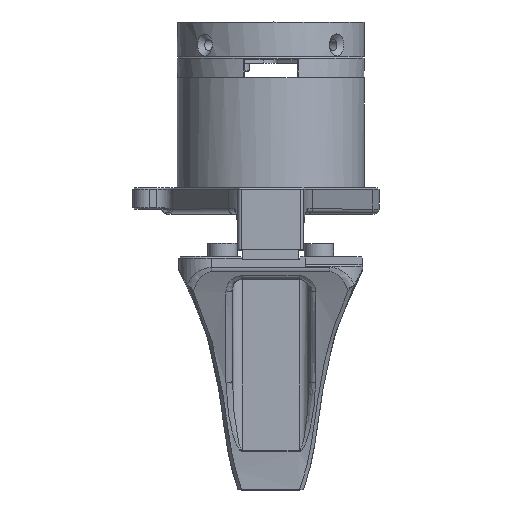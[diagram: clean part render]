
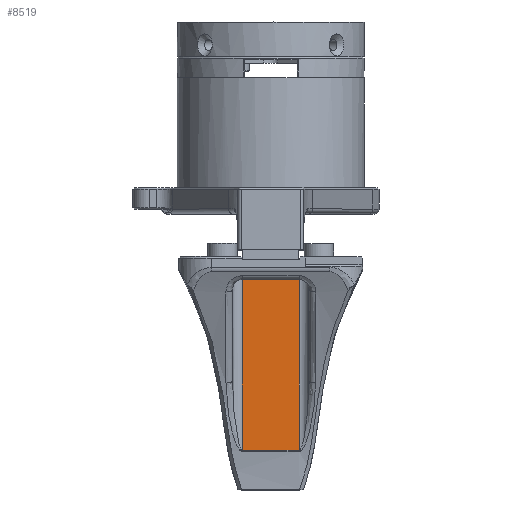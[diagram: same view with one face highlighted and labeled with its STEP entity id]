
A CAD part, top view. The second image highlights one B-rep face of the part: STEP entity #8519.
In plain terms, the highlighted planar face has unit normal (0, 0, 1).
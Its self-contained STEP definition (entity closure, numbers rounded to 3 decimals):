
#251 = ORIENTED_EDGE ( 'NONE', *, *, #25014, .T. ) ;
#1032 = EDGE_CURVE ( 'NONE', #1423, #24573, #13919, .T. ) ;
#1423 = VERTEX_POINT ( 'NONE', #23555 ) ;
#1559 = ORIENTED_EDGE ( 'NONE', *, *, #3973, .T. ) ;
#2619 = VERTEX_POINT ( 'NONE', #15018 ) ;
#3204 = DIRECTION ( 'NONE',  ( 0., 1., 0. ) ) ;
#3484 = FACE_OUTER_BOUND ( 'NONE', #19852, .T. ) ;
#3973 = EDGE_CURVE ( 'NONE', #2619, #19763, #20396, .T. ) ;
#5270 = ORIENTED_EDGE ( 'NONE', *, *, #17054, .T. ) ;
#8300 = DIRECTION ( 'NONE',  ( -1., 0., 0. ) ) ;
#8519 = ADVANCED_FACE ( 'NONE', ( #3484 ), #13200, .F. ) ;
#8599 = CARTESIAN_POINT ( 'NONE',  ( 0.739, -13.518, 9.55 ) ) ;
#8813 = CARTESIAN_POINT ( 'NONE',  ( -16.561, -65.693, 9.55 ) ) ;
#9219 = VECTOR ( 'NONE', #8300, 1000. ) ;
#10967 = DIRECTION ( 'NONE',  ( 0., 0., -1. ) ) ;
#11009 = CARTESIAN_POINT ( 'NONE',  ( 3.739, -13.518, 9.55 ) ) ;
#11051 = DIRECTION ( 'NONE',  ( 0., -1., 0. ) ) ;
#13200 = PLANE ( 'NONE',  #19020 ) ;
#13914 = LINE ( 'NONE', #8813, #30495 ) ;
#13919 = LINE ( 'NONE', #20589, #31421 ) ;
#15018 = CARTESIAN_POINT ( 'NONE',  ( 0.739, -13.518, 9.55 ) ) ;
#17054 = EDGE_CURVE ( 'NONE', #24573, #2619, #22129, .T. ) ;
#18433 = DIRECTION ( 'NONE',  ( -1., 0., 0. ) ) ;
#19020 = AXIS2_PLACEMENT_3D ( 'NONE', #30501, #10967, #18433 ) ;
#19763 = VERTEX_POINT ( 'NONE', #20052 ) ;
#19852 = EDGE_LOOP ( 'NONE', ( #251, #28273, #5270, #1559 ) ) ;
#20052 = CARTESIAN_POINT ( 'NONE',  ( -16.561, -13.518, 9.55 ) ) ;
#20396 = LINE ( 'NONE', #11009, #9219 ) ;
#20589 = CARTESIAN_POINT ( 'NONE',  ( 3.739, -65.541, 9.55 ) ) ;
#22129 = LINE ( 'NONE', #8599, #29728 ) ;
#23555 = CARTESIAN_POINT ( 'NONE',  ( -16.561, -65.541, 9.55 ) ) ;
#24573 = VERTEX_POINT ( 'NONE', #30146 ) ;
#25014 = EDGE_CURVE ( 'NONE', #19763, #1423, #13914, .T. ) ;
#28273 = ORIENTED_EDGE ( 'NONE', *, *, #1032, .T. ) ;
#28371 = DIRECTION ( 'NONE',  ( 1., 0., 0. ) ) ;
#29728 = VECTOR ( 'NONE', #3204, 1000. ) ;
#30146 = CARTESIAN_POINT ( 'NONE',  ( 0.739, -65.541, 9.55 ) ) ;
#30495 = VECTOR ( 'NONE', #11051, 1000. ) ;
#30501 = CARTESIAN_POINT ( 'NONE',  ( 3.739, -88.518, 9.55 ) ) ;
#31421 = VECTOR ( 'NONE', #28371, 1000. ) ;
